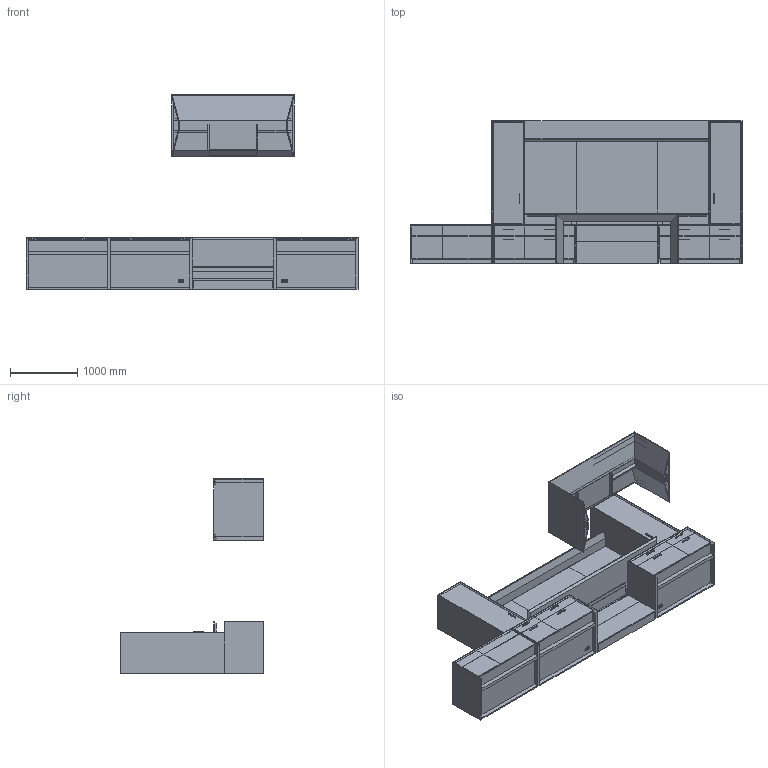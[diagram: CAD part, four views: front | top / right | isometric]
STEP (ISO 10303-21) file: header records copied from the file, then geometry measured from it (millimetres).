
FILE_DESCRIPTION(/* description */ ('','CAx-IF Rec.Pracs.---Representation and Presentation of Product Manufacturing Information (PMI)---4.0---2014-10-13'),/* implementation_level */ '2;1');
FILE_NAME(/* name */ 'AERO^PO2.stp',/* time_stamp */ '2024-12-05T16:16:40-05:00',/* author */ ('mbowman'),/* organization */ (''),/* preprocessor_version */ 'ST-DEVELOPER v19.2',/* originating_system */ 'Autodesk Inventor 2023',/* authorisation */ '');
FILE_SCHEMA (('AP242_MANAGED_MODEL_BASED_3D_ENGINEERING_MIM_LF { 1 0 10303 442 1 1 4 }'));
Products named in the file (20): AERO^OFFICE 3_FIXED DESK LIFT WALL-SOLIDS ASSEMBLY; AERO^OFFICE 3_107x24 LIFT WALL-WORKSURFACE; AERO^OFFICE 3_6x48 WIRE WALL-PARTS SOLID; dl5nc_without_bracket_STEP; dl5nc_without_bracket_STEP_1; DL5NC_OP; STANDART_MOTORHUS1_DL5; AERO^OFFICE 3_36x72 FIXED PANEL DESK-PARTS SOLID; AERO^OFFICE 3_108 WALL HUNG-SHELF; AERO^OFFICE 3_WALL HUNG-TACK; AERO^OFFICE 3_30x48x23 WALL PED-PARTS SOLID; AERO^OFFICE 3_30x48x23 RIGHT PED-PARTS SOLID; AERO^OFFICE 3_UPPER WARDROBE-PARTS SOLID; H-Q-PULLNEW; AERO^OFFICE 3_WALL HUNG-48 TACK; SS LIFT ANGLE_18_LT_OMT_LINAK; SS LIFT ANGLE_18_RT_OMT_LINAK; AERO^OFFICE 3_6x48 LIFT SHROUDS-LEFT UNIT PARTS SOLID; AERO^OFFICE 3_6x48 LIFT SHROUDS-RIGHT UNIT PARTS SOLID; AERO^OFFICE 3_6x48 WIRE WALL-WIRE TROUGH
Assembly tree (32 placements, depth 3):
  AERO^OFFICE 3_FIXED DESK LIFT WALL-SOLIDS ASSEMBLY
    AERO^OFFICE 3_107x24 LIFT WALL-WORKSURFACE
    AERO^OFFICE 3_6x48 WIRE WALL-PARTS SOLID
    dl5nc_without_bracket_STEP
      DL5NC_OP
      STANDART_MOTORHUS1_DL5
    dl5nc_without_bracket_STEP_1
      DL5NC_OP
      STANDART_MOTORHUS1_DL5
    AERO^OFFICE 3_36x72 FIXED PANEL DESK-PARTS SOLID
    AERO^OFFICE 3_108 WALL HUNG-SHELF
    AERO^OFFICE 3_WALL HUNG-TACK  x2
    H-Q-PULLNEW  x10
    AERO^OFFICE 3_30x48x23 WALL PED-PARTS SOLID
    AERO^OFFICE 3_30x48x23 RIGHT PED-PARTS SOLID
    AERO^OFFICE 3_UPPER WARDROBE-PARTS SOLID  x2
    AERO^OFFICE 3_WALL HUNG-48 TACK
    SS LIFT ANGLE_18_LT_OMT_LINAK
    SS LIFT ANGLE_18_RT_OMT_LINAK
    AERO^OFFICE 3_6x48 LIFT SHROUDS-LEFT UNIT PARTS SOLID
    AERO^OFFICE 3_6x48 LIFT SHROUDS-RIGHT UNIT PARTS SOLID
    AERO^OFFICE 3_6x48 WIRE WALL-WIRE TROUGH
Bounding box: 4953 x 2127.25 x 2895.6 mm (x, y, z)
Volume: 903324784.1 mm3; surface area: 75446479.9 mm2
Topology: 109 solids, 149 shells, 3122 faces, 7804 edges, 4980 vertices
Faces by surface type: plane 1964, cylinder 910, bspline 96, torus 92, cone 36, sphere 24
Full cylindrical faces by diameter (mm): 3.962 x20, 4.6 x4, 4.826 x10, 5 x20, 5.3 x12, 5.5 x4, 7.137 x4, 8 x4, 8.202 x40, 31.75 x2
Entity records: 64255 total; most frequent: CARTESIAN_POINT 15537, DIRECTION 9394, ORIENTED_EDGE 9078, EDGE_CURVE 4539, LINE 3294, VECTOR 3294, AXIS2_PLACEMENT_3D 3050, VERTEX_POINT 2924
